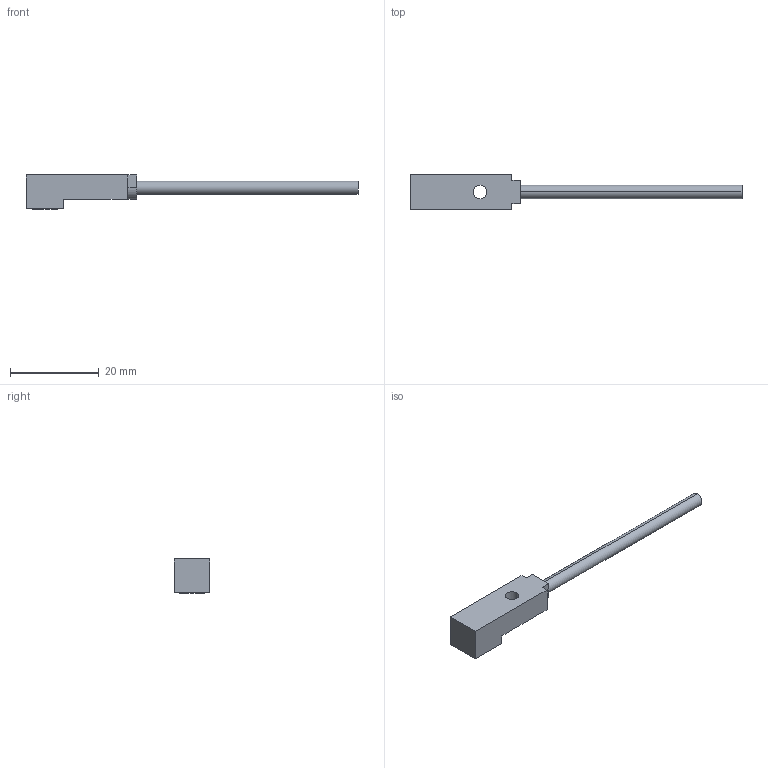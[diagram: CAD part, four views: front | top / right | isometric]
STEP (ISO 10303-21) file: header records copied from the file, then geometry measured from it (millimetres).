
FILE_DESCRIPTION (( 'STEP AP214' ), '1' );
FILE_NAME ('SP08F-B.STEP', '2025-09-09T10:09:53', ( 'Windows User' ), ( 'P R C' ), 'SwSTEP 2.0', 'SolidWorks 2023', '' );
FILE_SCHEMA (( 'AUTOMOTIVE_DESIGN' ));
Length unit declared in the file: millimetre
Products named in the file (1): SP08F-B
Bounding box: 75 x 8 x 7.7 mm (x, y, z)
Volume: 1521.7 mm3; surface area: 1333.9 mm2
Topology: 1 solids, 1 shells, 116 faces, 298 edges, 198 vertices
Faces by surface type: plane 70, bspline 40, cylinder 6
Entity records: 5901 total; most frequent: CARTESIAN_POINT 3309, ORIENTED_EDGE 596, DIRECTION 384, EDGE_CURVE 298, VECTOR 206, LINE 206, VERTEX_POINT 198, EDGE_LOOP 132
